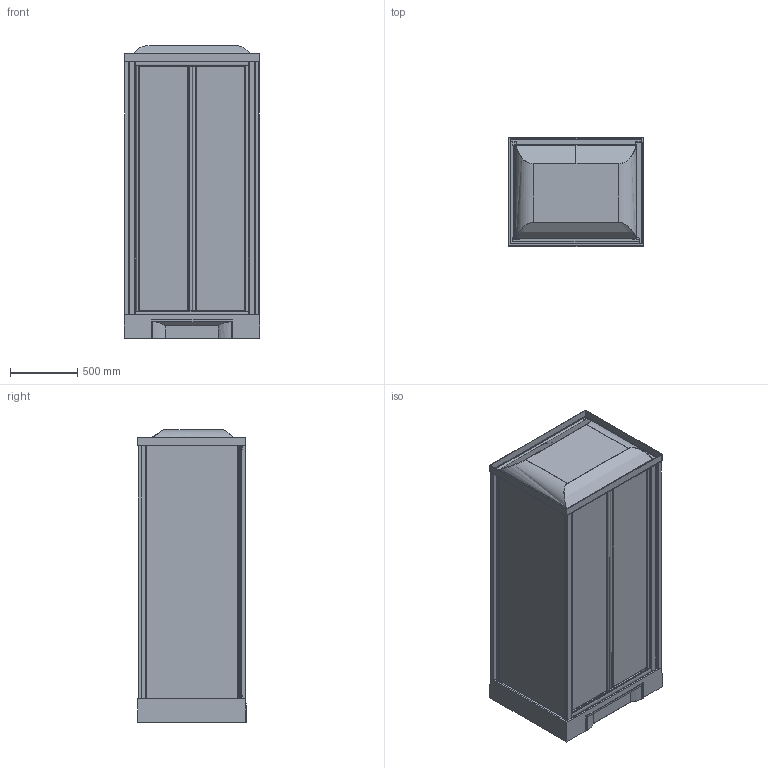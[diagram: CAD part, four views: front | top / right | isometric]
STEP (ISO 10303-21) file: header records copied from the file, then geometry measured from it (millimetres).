
FILE_DESCRIPTION(('STEP AP203'),'2;1');
FILE_NAME('NNH S 100 M T.stp','2015-09-04T14:41:17',(''),(''),'2014.1.117','THINKDESIGN','');
FILE_SCHEMA(('CONFIG_CONTROL_DESIGN'));
Length unit declared in the file: millimetre
Products named in the file (1): top
Bounding box: 1004.04 x 807.53 x 2170 mm (x, y, z)
Volume: 227056269.2 mm3; surface area: 20715062.5 mm2
Topology: 26 solids, 26 shells, 620 faces, 1636 edges, 1067 vertices
Faces by surface type: bspline 319, plane 254, cylinder 47
Entity records: 63229 total; most frequent: CARTESIAN_POINT 50451, ORIENTED_EDGE 3156, DIRECTION 1599, EDGE_CURVE 1578, VERTEX_POINT 1030, VECTOR 757, LINE 757, EDGE_LOOP 634
